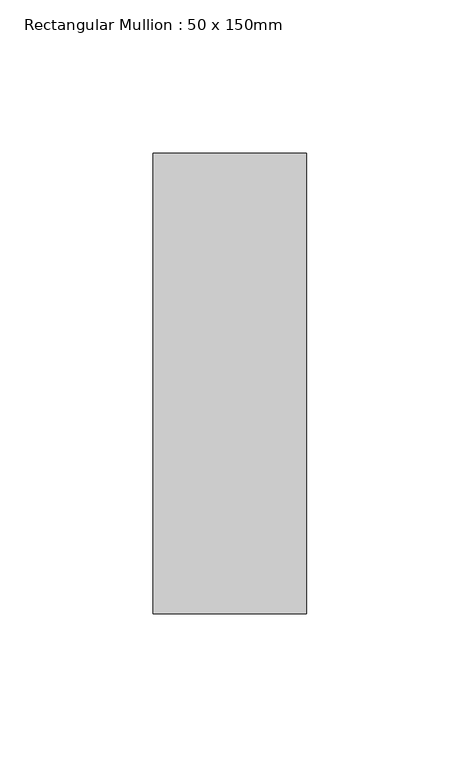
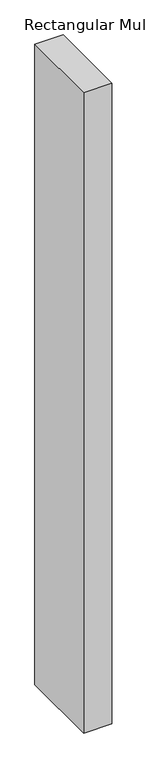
"""IFC4 building model written with IfcOpenShell, lengths in millimetres: member geometry, Rectangular Mullion : 50 x 150mm."""

from ifc_helpers import new_model, si_unit, frame, origin, place, context, project, spatial, polyline, outline, extrude, source, transform, mapped, element, save


def rectangular_mullion_50_x_150mm_82e17202(model_context):
    return source(origin(), model_context, "Body", "SweptSolid", [
        extrude(outline(polyline([(0.0, 75.0), (0.0, -75.0), (-50.0, -75.0), (-50.0, 75.0), (0.0, 75.0)])), frame((0.0, 0.0, -1201.7187623), z_axis=(0.0, 0.0, 1.0), x_axis=(1.0, 0.0, 0.0)), (0.0, 0.0, 1.0), 1201.7187623),
    ])


if __name__ == "__main__":
    model = new_model("IFC4")
    model_context = context("Model", 3, world=origin())
    ifc_project = project(units=[si_unit("LENGTHUNIT", "METRE", prefix="MILLI")], contexts=[model_context])
    site = spatial("IfcSite", under=ifc_project)
    building = spatial("IfcBuilding", under=site)
    placement = place(None, origin())
    rectangular_mullion_50_x_150mm_shape = rectangular_mullion_50_x_150mm_82e17202(model_context)
    element("IfcMember", 1, ObjectType="Rectangular Mullion : 50 x 150mm", at=placement, inside=building, context=model_context, shape_type="MappedRepresentation", body=[
        mapped(rectangular_mullion_50_x_150mm_shape, transform((0.0, 0.0, 0.0), x_axis=(1.0, 0.0, 0.0), y_axis=(0.0, 1.0, 0.0), z_axis=(0.0, 0.0, 1.0))),
    ])
    save(model, "model.ifc")
